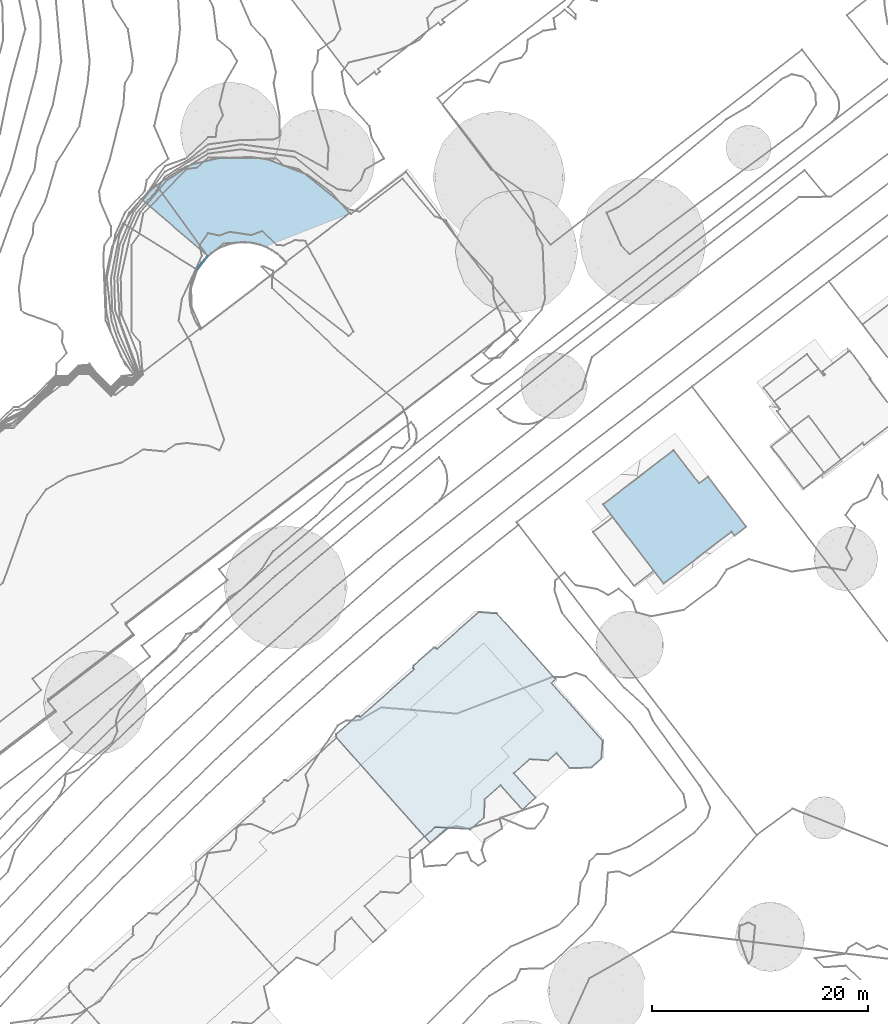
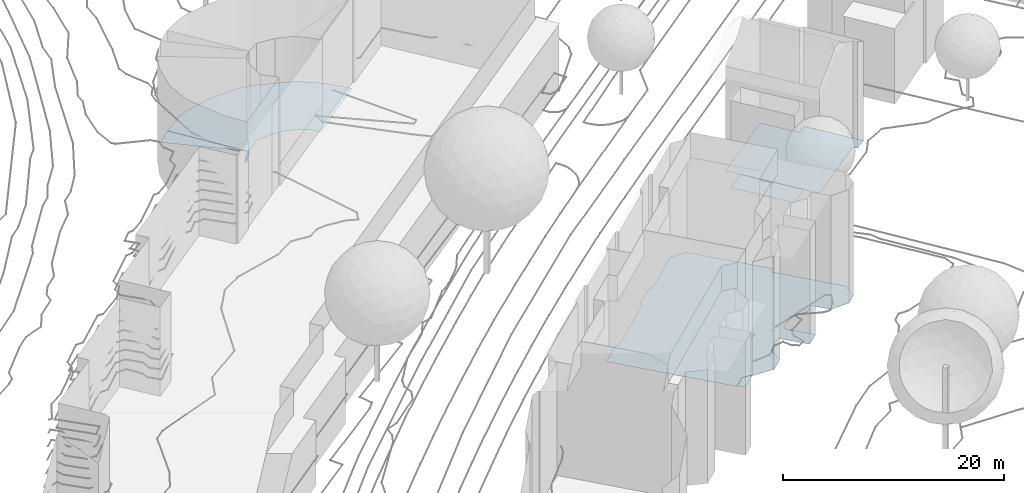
# Not in any storey, part 8 of 477: 5 footings.
"""IFC4 building model written with IfcOpenShell, lengths in metres."""

from ifc_helpers import new_model, si_unit, frame, origin_with_axes, place, context, subcontext, project, spatial, polygons, element, save


model = new_model("IFC4")

# Units and contexts
model_context = context("Model", 3, precision=1e-05, world=origin_with_axes())
body_context = subcontext(model_context, "Body", "Model", "MODEL_VIEW")
ifc_project = project(units=[si_unit("AREAUNIT", "SQUARE_METRE"), si_unit("LENGTHUNIT", "METRE")], contexts=[model_context])

# Sites, building
site_1_placement = place(None, origin_with_axes())
site_1 = spatial("IfcSite", under=ifc_project, at=site_1_placement, Name="Topoexport Site")
site_2_placement = place(site_1_placement, origin_with_axes())
site_2 = spatial("IfcSite", under=site_1, at=site_2_placement, Name="TPX_BUILDINGS")
building_1_placement = place(site_2_placement, frame((365.5087320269, 90.6648160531, 499.5586), z_axis=(0.0, 0.0, 1.0), x_axis=(1.0, 0.0, 0.0)))
building_1 = spatial("IfcBuilding", under=site_2, at=building_1_placement, Name="Building 3", CompositionType="ELEMENT")

# Footing
footing_1_placement = place(None, frame((365.5087320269, 90.6648160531, 499.5586), z_axis=(0.0, 0.0, 1.0), x_axis=(1.0, 0.0, 0.0)))
element("IfcFooting", 1, at=footing_1_placement, inside=building_1, Name="Floor 0", context=body_context, shape_type="Tessellation", body=[
    polygons([(8.7309999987, -9.8016999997, 0.095), (9.1849999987, -8.3553999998, 0.095), (10.2949999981, -8.4140000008, 0.095), (8.2109999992, -9.2186999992, 0.095), (12.3619999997, -8.5234000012, 0.0), (13.6900000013, -7.4580000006, 0.0), (12.4189999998, -8.5868999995, 0.0), (13.7690000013, -5.7685000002, 0.0), (7.2329999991, 6.25, 0.0), (15.2329999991, -4.4648000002, 0.0), (9.1849999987, -8.3553999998, 0.0), (16.4600000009, -3.3729999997, 0.0), (17.2540000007, -6.7197000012, 0.0), (9.3579999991, 8.1338, 0.0), (17.9169999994, -2.0751000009, 0.0), (18.4820000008, -5.6297999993, 0.0), (21.6640000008, -2.8973999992, 0.0), (24.6719999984, -0.3662, 0.0), (23.5819999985, -2.8584000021, 0.0), (24.5549999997, -1.9891999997, 0.0), (20.4100000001, -1.4862999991, 0.0), (19.625, -2.1845000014, 0.0), (19.9419999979, 4.9873999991, 0.0), (2.2340000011, 1.8203999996, 0.0), (0.0769999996, -0.0908000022, 0.0), (0.0219999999, 0.2402999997, 0.0), (1.9189999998, 1.9239000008, 0.0), (2.1539999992, 1.9101999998, 0.0), (0.0, 0.0, 0.0), (13.1970000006, 11.5372000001, 0.0), (14.8920000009, 11.4208999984, 0.0), (20.3209999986, 5.3242999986, 0.0), (7.1680000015, 6.5830999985, 0.0), (9.0339999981, 8.2392999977, 0.0), (9.2780000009, 8.2236999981, 0.0), (7.1530000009, 6.3398999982, 0.0), (8.2120000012, -9.2177000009, 0.0)], [[[1, 2, 3]], [[2, 1, 4]], [[5, 6, 7]], [[8, 6, 5]], [[8, 9, 10]], [[8, 5, 11]], [[12, 10, 9]], [[13, 10, 12]], [[14, 15, 12]], [[12, 16, 13]], [[17, 18, 19]], [[20, 19, 18]], [[21, 18, 17]], [[22, 15, 21]], [[23, 18, 21]], [[21, 15, 23]], [[24, 8, 11]], [[24, 11, 25]], [[8, 24, 9]], [[25, 26, 24]], [[12, 9, 14]], [[24, 26, 27]], [[24, 27, 28]], [[25, 29, 26]], [[14, 30, 31]], [[31, 23, 14]], [[32, 23, 31]], [[14, 9, 33]], [[34, 35, 14]], [[14, 33, 34]], [[15, 14, 23]], [[33, 9, 36]], [[11, 37, 25]]]),
])

# Building
building_2_placement = place(site_2_placement, frame((389.3167320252, 109.6180160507, 499.0156), z_axis=(0.0, 0.0, 1.0), x_axis=(1.0, 0.0, 0.0)))
building_2 = spatial("IfcBuilding", under=site_2, at=building_2_placement, Name="Building 32", CompositionType="ELEMENT")

# Footing
footing_2_placement = place(None, frame((389.3167320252, 109.6180160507, 499.0156), z_axis=(0.0, 0.0, 1.0), x_axis=(1.0, 0.0, 0.0)))
element("IfcFooting", 2, at=footing_2_placement, inside=building_2, Name="Floor 0", context=body_context, shape_type="Tessellation", body=[
    polygons([(6.5310000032, -4.7753999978, -0.032), (5.6060000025, -3.5771999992, -0.032), (9.2690000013, -2.673899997, -0.032), (9.8150000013, 4.5029000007, -0.032), (10.6590000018, -1.6083999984, -0.032), (13.0810000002, -0.3320999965, -0.032), (12.8000000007, 0.0342000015, -0.032), (14.1560000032, 0.4814000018, -0.032), (10.6339999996, 5.1308000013, -0.032), (3.2840000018, 4.3828000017, -0.032), (4.1740000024, 5.0644000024, -0.032), (1.6440000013, 1.5986000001, -0.032), (0.9100000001, 2.5615000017, -0.032), (7.443, 7.5722000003, -0.032), (1.807, 1.3857000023, 0.0), (5.6060000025, -3.5771999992, 0.0), (0.0, 0.0, 0.0), (3.7730000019, -4.9833999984, 0.0)], [[[1, 2, 3]], [[3, 4, 5]], [[6, 7, 8]], [[5, 4, 7]], [[7, 9, 8]], [[10, 3, 2]], [[3, 10, 11]], [[12, 13, 10]], [[11, 4, 3]], [[9, 7, 4]], [[11, 14, 4]], [[2, 12, 10]], [[15, 16, 17]], [[18, 17, 16]]]),
])

# Building
building_3_placement = place(site_2_placement, frame((287.111732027, 46.2742160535, 500.3625), z_axis=(0.0, 0.0, 1.0), x_axis=(1.0, 0.0, 0.0)))
building_3 = spatial("IfcBuilding", under=site_2, at=building_3_placement, Name="Building 65", CompositionType="ELEMENT")

# Footings
footing_3_placement = place(None, frame((287.111732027, 46.2742160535, 500.3625), z_axis=(0.0, 0.0, 1.0), x_axis=(1.0, 0.0, 0.0)))
element("IfcFooting", 3, at=footing_3_placement, inside=building_3, Name="Floor 5", context=body_context, shape_type="Tessellation", body=[
    polygons([(61.7819999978, 95.4219000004, -0.3589), (66.5350000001, 88.8886999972, -0.3589), (60.3469999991, 94.1474999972, -0.3589), (66.5399999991, 88.8925999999, -0.3589)], [[[1, 2, 3]], [[2, 1, 4]]]),
])
footing_4_placement = place(None, frame((287.111732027, 46.2742160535, 500.3625), z_axis=(0.0, 0.0, 1.0), x_axis=(1.0, 0.0, 0.0)))
element("IfcFooting", 4, at=footing_4_placement, inside=building_3, Name="Floor 6", context=body_context, shape_type="Tessellation", body=[
    polygons([(65.5219999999, 87.6425999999, -0.3589), (65.6440000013, 87.8515999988, -0.3589), (65.557, 87.5995999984, -0.3589), (65.8969999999, 88.2099999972, -0.3589), (66.180999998, 88.5449000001, -0.3589), (66.557, 88.8691999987, -0.3589), (66.4919999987, 88.8534999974, -0.3589), (66.5359999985, 88.8896999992, -0.3589), (66.5390000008, 88.8915999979, -0.3589)], [[[1, 2, 3]], [[3, 2, 4]], [[4, 5, 3]], [[3, 5, 6]], [[7, 8, 6]], [[6, 5, 7]], [[9, 6, 8]]]),
])
footing_5_placement = place(None, frame((287.111732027, 46.2742160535, 500.3625), z_axis=(0.0, 0.0, 1.0), x_axis=(1.0, 0.0, 0.0)))
element("IfcFooting", 5, at=footing_5_placement, inside=building_3, Name="Floor 8", context=body_context, shape_type="Tessellation", body=[
    polygons([(73.7740000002, 88.3290999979, -0.3589), (73.5579999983, 88.5312999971, -0.3589), (79.6539999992, 92.8544999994, -0.3589), (73.25, 88.8398999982, -0.3589), (72.7749999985, 89.2109999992, -0.3589), (72.5549999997, 89.3642999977, -0.3589), (72.9890000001, 89.1044999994, -0.3589), (72.1779999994, 89.5821000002, -0.3589), (75.7809999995, 96.3847999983, -0.3589), (78.0089999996, 94.7294999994, -0.3589), (72.0909999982, 97.8105999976, -0.3589), (71.373999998, 89.9159999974, -0.3589), (71.7829999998, 89.7665999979, -0.3589), (70.5249999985, 90.1064999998, -0.3589), (70.9539999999, 90.0293000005, -0.3589), (70.0219999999, 90.1699000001, -0.3589), (69.2219999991, 90.1132999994, -0.3589), (70.4869999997, 98.0429999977, -0.3589), (69.6559999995, 90.1464999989, -0.3589), (68.0170000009, 90.0361999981, -0.3589), (67.4470000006, 97.9140999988, -0.3589), (66.5390000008, 88.8915999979, -0.3589), (66.5399999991, 88.8925999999, -0.3589), (66.557, 88.8691999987, -0.3589), (67.1900000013, 89.3798999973, -0.3589), (63.8220000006, 96.8057000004, -0.3589), (61.7819999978, 95.4219000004, -0.3589), (65.0579999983, 97.3466999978, -0.3589), (64.4250000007, 97.0888999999, -0.3589), (64.6579999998, 97.1983000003, -0.3589), (70.0929999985, 90.1484999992, -0.3589)], [[[1, 2, 3]], [[3, 2, 4]], [[5, 6, 7]], [[8, 9, 6]], [[6, 10, 7]], [[4, 7, 10]], [[6, 9, 10]], [[11, 9, 12]], [[3, 4, 10]], [[12, 9, 13]], [[14, 11, 15]], [[15, 11, 12]], [[9, 8, 13]], [[14, 16, 11]], [[17, 18, 19]], [[20, 21, 17]], [[22, 23, 24]], [[25, 26, 20]], [[25, 24, 23]], [[25, 23, 27]], [[18, 17, 21]], [[28, 21, 20]], [[16, 19, 18]], [[11, 16, 18]], [[29, 30, 20]], [[20, 30, 28]], [[29, 20, 26]], [[27, 26, 25]], [[14, 31, 16]]]),
])

save(model, "model.ifc")
